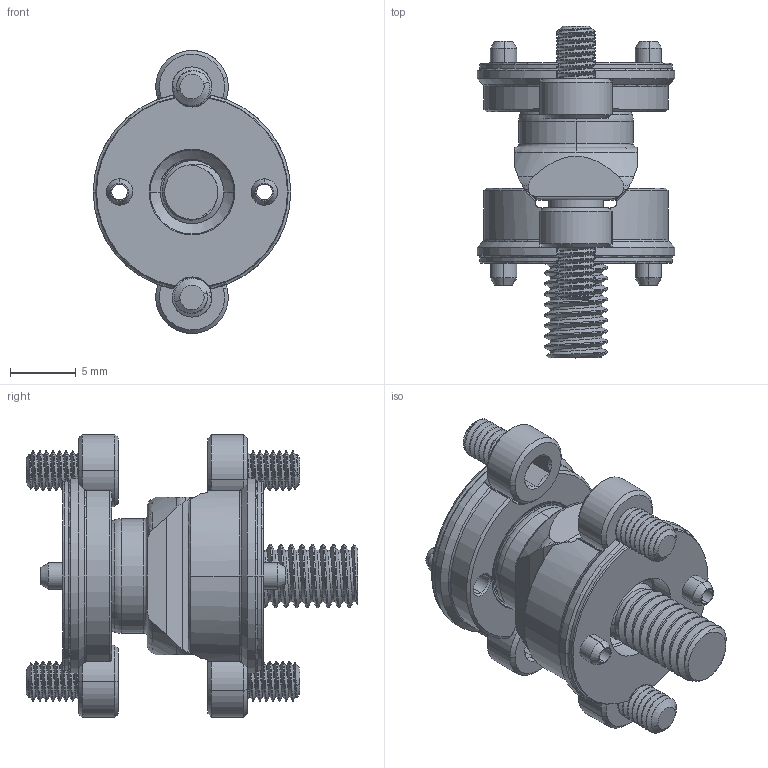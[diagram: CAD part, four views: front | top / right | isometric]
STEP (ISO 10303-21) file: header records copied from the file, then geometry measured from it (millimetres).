
FILE_DESCRIPTION (( 'STEP AP214' ), '1' );
FILE_NAME ('SPH10-STK-FR-B Blind Fixed Retainer Stack (noPlates).STEP', '2026-03-24T05:55:33', ( '' ), ( '' ), 'SwSTEP 2.0', 'SolidWorks 2022', '' );
FILE_SCHEMA (( 'AUTOMOTIVE_DESIGN' ));
Length unit declared in the file: millimetre
Products named in the file (11): SPH10-RF Fixed Retainer_Blind; SPH10-GEOMETRY; SPH10-SP Spherolinder_Grinding ; SPH10-STK-FR-B Blind Fixed Retainer Stack (noPlates); SPH10-BC Cone Block_Grinding; SPH10-BV Vee Block_grinding; SPH10a-TOP_Blind-noPlate; SPH10h-SI Installation Screw MCM_91292A109 M3x4.0 18-8 Stainless Steel Socket Head Screw_91292A109; SPH10h-RR Retainer Ring MCM_9433K234 .188x.127x.031 302 Stainless Steel Corrosion-Resistant Extension Spring with Loop Ends_Pried Open; SPH10h-PC Slotted Spring Pin MCM_91610A200 M2x4.0 18-8 STAINLESS STEEL SLOTTED SPRING PIN_Closed; SPH10a-BTM-FR_Blind-noPlate
Assembly tree (15 placements, depth 3):
  SPH10-GEOMETRY
  SPH10-STK-FR-B Blind Fixed Retainer Stack (noPlates)
    SPH10a-BTM-FR_Blind-noPlate
      SPH10-BV Vee Block_grinding
      SPH10-SP Spherolinder_Grinding 
      SPH10-RF Fixed Retainer_Blind
      SPH10h-RR Retainer Ring MCM_9433K234 .188x.127x.031 302 Stainless Steel Corrosion-Resistant Extension Spring with Loop Ends_Pried Open
      SPH10h-SI Installation Screw MCM_91292A109 M3x4.0 18-8 Stainless Steel Socket Head Screw_91292A109  x2
      SPH10h-PC Slotted Spring Pin MCM_91610A200 M2x4.0 18-8 STAINLESS STEEL SLOTTED SPRING PIN_Closed  x2
    SPH10a-TOP_Blind-noPlate
      SPH10-BC Cone Block_Grinding
      SPH10h-PC Slotted Spring Pin MCM_91610A200 M2x4.0 18-8 STAINLESS STEEL SLOTTED SPRING PIN_Closed  x2
      SPH10h-SI Installation Screw MCM_91292A109 M3x4.0 18-8 Stainless Steel Socket Head Screw_91292A109  x2
Bounding box: 15 x 25.2 x 21.5 mm (x, y, z)
Volume: 2128 mm3; surface area: 2970 mm2
Topology: 13 solids, 13 shells, 589 faces, 1485 edges, 936 vertices
Faces by surface type: cylinder 281, cone 134, plane 101, torus 38, bspline 31, sphere 4
Entity records: 15802 total; most frequent: CARTESIAN_POINT 6763, ORIENTED_EDGE 1884, DIRECTION 1684, EDGE_CURVE 942, AXIS2_PLACEMENT_3D 704, VERTEX_POINT 594, EDGE_LOOP 392, ADVANCED_FACE 370
